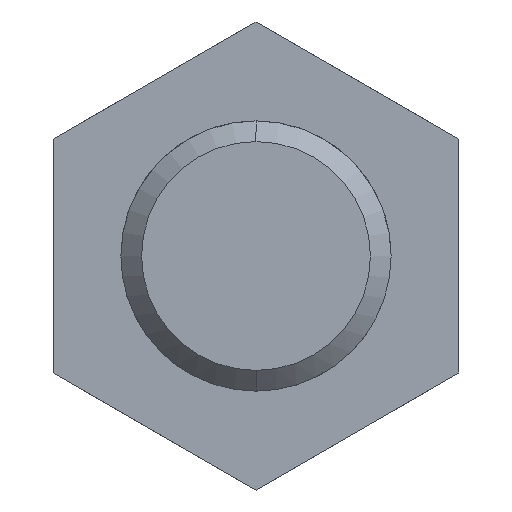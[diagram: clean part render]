
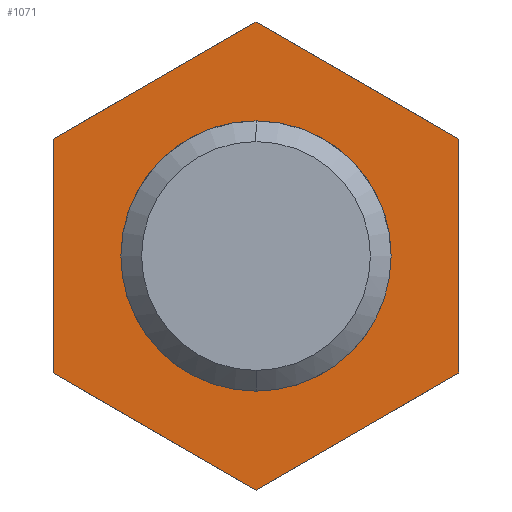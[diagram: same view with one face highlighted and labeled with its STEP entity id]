
A CAD part, front view. The second image highlights one B-rep face of the part: STEP entity #1071.
In plain terms, the highlighted planar face has unit normal (0, -1, 0).
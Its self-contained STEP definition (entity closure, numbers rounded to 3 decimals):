
#887=CARTESIAN_POINT('Vertex',(12.,0.,6.928)) ;
#894=CARTESIAN_POINT('Vertex',(0.,0.,13.856)) ;
#897=CARTESIAN_POINT('Line Origine',(6.,0.,10.392)) ;
#918=CARTESIAN_POINT('Vertex',(12.,0.,-6.928)) ;
#921=CARTESIAN_POINT('Line Origine',(12.,0.,0.)) ;
#943=CARTESIAN_POINT('Vertex',(0.,0.,-13.856)) ;
#946=CARTESIAN_POINT('Line Origine',(6.,0.,-10.392)) ;
#967=CARTESIAN_POINT('Vertex',(-12.,0.,-6.928)) ;
#970=CARTESIAN_POINT('Line Origine',(-6.,0.,-10.392)) ;
#991=CARTESIAN_POINT('Vertex',(-12.,0.,6.928)) ;
#994=CARTESIAN_POINT('Line Origine',(-12.,0.,0.)) ;
#1012=CARTESIAN_POINT('Line Origine',(-6.,0.,10.392)) ;
#1024=CARTESIAN_POINT('Axis2P3D Location',(0.,0.,0.)) ;
#1037=CARTESIAN_POINT('Axis2P3D Location',(0.,0.,0.)) ;
#1041=CARTESIAN_POINT('Vertex',(0.,0.,-7.5)) ;
#1043=CARTESIAN_POINT('Vertex',(7.5,0.,0.)) ;
#1046=CARTESIAN_POINT('Axis2P3D Location',(0.,0.,0.)) ;
#1050=CARTESIAN_POINT('Vertex',(-7.5,0.,0.)) ;
#1053=CARTESIAN_POINT('Axis2P3D Location',(0.,0.,0.)) ;
#1057=CARTESIAN_POINT('Vertex',(0.,0.,7.5)) ;
#1060=CARTESIAN_POINT('Axis2P3D Location',(0.,0.,0.)) ;
#898=DIRECTION('Vector Direction',(0.866,0.,-0.5)) ;
#922=DIRECTION('Vector Direction',(0.,0.,-1.)) ;
#947=DIRECTION('Vector Direction',(-0.866,0.,-0.5)) ;
#971=DIRECTION('Vector Direction',(-0.866,0.,0.5)) ;
#995=DIRECTION('Vector Direction',(0.,0.,1.)) ;
#1013=DIRECTION('Vector Direction',(0.866,0.,0.5)) ;
#1025=DIRECTION('Axis2P3D Direction',(0.,1.,0.)) ;
#1026=DIRECTION('Axis2P3D XDirection',(0.,-0.,1.)) ;
#1038=DIRECTION('Axis2P3D Direction',(0.,1.,0.)) ;
#1047=DIRECTION('Axis2P3D Direction',(0.,1.,0.)) ;
#1054=DIRECTION('Axis2P3D Direction',(0.,1.,0.)) ;
#1061=DIRECTION('Axis2P3D Direction',(0.,1.,0.)) ;
#1027=AXIS2_PLACEMENT_3D('Plane Axis2P3D',#1024,#1025,#1026) ;
#1039=AXIS2_PLACEMENT_3D('Circle Axis2P3D',#1037,#1038,$) ;
#1048=AXIS2_PLACEMENT_3D('Circle Axis2P3D',#1046,#1047,$) ;
#1055=AXIS2_PLACEMENT_3D('Circle Axis2P3D',#1053,#1054,$) ;
#1062=AXIS2_PLACEMENT_3D('Circle Axis2P3D',#1060,#1061,$) ;
#1030=ORIENTED_EDGE('',*,*,#998,.F.) ;
#1031=ORIENTED_EDGE('',*,*,#974,.F.) ;
#1032=ORIENTED_EDGE('',*,*,#950,.F.) ;
#1033=ORIENTED_EDGE('',*,*,#925,.F.) ;
#1034=ORIENTED_EDGE('',*,*,#901,.F.) ;
#1035=ORIENTED_EDGE('',*,*,#1016,.F.) ;
#1066=ORIENTED_EDGE('',*,*,#1045,.F.) ;
#1067=ORIENTED_EDGE('',*,*,#1052,.F.) ;
#1068=ORIENTED_EDGE('',*,*,#1059,.F.) ;
#1069=ORIENTED_EDGE('',*,*,#1064,.F.) ;
#1070=FACE_BOUND('',#1065,.T.) ;
#899=VECTOR('Line Direction',#898,1.) ;
#923=VECTOR('Line Direction',#922,1.) ;
#948=VECTOR('Line Direction',#947,1.) ;
#972=VECTOR('Line Direction',#971,1.) ;
#996=VECTOR('Line Direction',#995,1.) ;
#1014=VECTOR('Line Direction',#1013,1.) ;
#1071=ADVANCED_FACE('395P-02-016-016',(#1036,#1070),#1028,.F.) ;
#1040=CIRCLE('generated circle',#1039,7.5) ;
#1049=CIRCLE('generated circle',#1048,7.5) ;
#1056=CIRCLE('generated circle',#1055,7.5) ;
#1063=CIRCLE('generated circle',#1062,7.5) ;
#901=EDGE_CURVE('',#895,#888,#900,.T.) ;
#925=EDGE_CURVE('',#888,#919,#924,.T.) ;
#950=EDGE_CURVE('',#919,#944,#949,.T.) ;
#974=EDGE_CURVE('',#944,#968,#973,.T.) ;
#998=EDGE_CURVE('',#968,#992,#997,.T.) ;
#1016=EDGE_CURVE('',#992,#895,#1015,.T.) ;
#1045=EDGE_CURVE('',#1042,#1044,#1040,.F.) ;
#1052=EDGE_CURVE('',#1051,#1042,#1049,.F.) ;
#1059=EDGE_CURVE('',#1058,#1051,#1056,.F.) ;
#1064=EDGE_CURVE('',#1044,#1058,#1063,.F.) ;
#1029=EDGE_LOOP('',(#1030,#1031,#1032,#1033,#1034,#1035)) ;
#1065=EDGE_LOOP('',(#1066,#1067,#1068,#1069)) ;
#1036=FACE_OUTER_BOUND('',#1029,.T.) ;
#900=LINE('Line',#897,#899) ;
#924=LINE('Line',#921,#923) ;
#949=LINE('Line',#946,#948) ;
#973=LINE('Line',#970,#972) ;
#997=LINE('Line',#994,#996) ;
#1015=LINE('Line',#1012,#1014) ;
#1028=PLANE('Plane',#1027) ;
#888=VERTEX_POINT('',#887) ;
#895=VERTEX_POINT('',#894) ;
#919=VERTEX_POINT('',#918) ;
#944=VERTEX_POINT('',#943) ;
#968=VERTEX_POINT('',#967) ;
#992=VERTEX_POINT('',#991) ;
#1042=VERTEX_POINT('',#1041) ;
#1044=VERTEX_POINT('',#1043) ;
#1051=VERTEX_POINT('',#1050) ;
#1058=VERTEX_POINT('',#1057) ;
